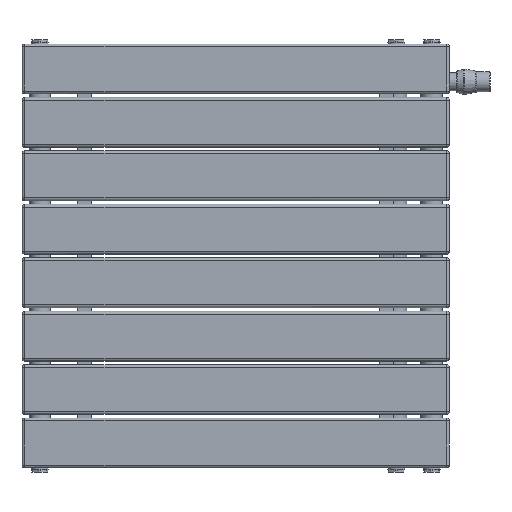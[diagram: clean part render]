
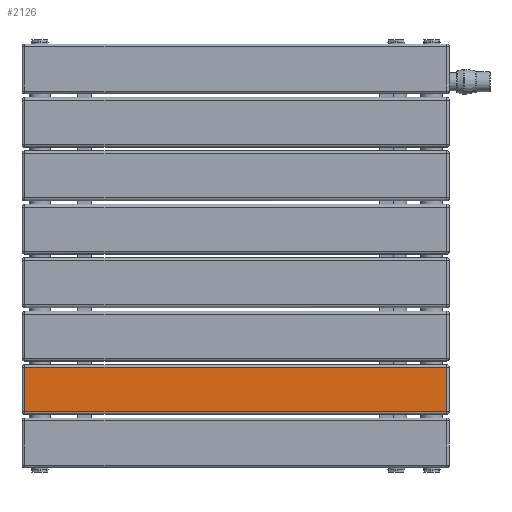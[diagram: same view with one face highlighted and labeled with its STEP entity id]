
A CAD part, top view. The second image highlights one B-rep face of the part: STEP entity #2126.
In plain terms, the highlighted planar face has unit normal (0, 0, 1) as drawn and (0, -1, 0) by its records, which use the part's own axes.
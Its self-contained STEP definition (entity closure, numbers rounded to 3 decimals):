
#237=LINE('',#3378,#409);
#238=LINE('',#3380,#410);
#239=LINE('',#3382,#411);
#240=LINE('',#3383,#412);
#409=VECTOR('',#2664,10.);
#410=VECTOR('',#2665,10.);
#411=VECTOR('',#2666,10.);
#412=VECTOR('',#2667,10.);
#575=PLANE('',#2349);
#695=FACE_OUTER_BOUND('',#832,.T.);
#832=EDGE_LOOP('',(#1564,#1565,#1566,#1567));
#1086=VERTEX_POINT('',#3376);
#1087=VERTEX_POINT('',#3377);
#1088=VERTEX_POINT('',#3379);
#1089=VERTEX_POINT('',#3381);
#1272=EDGE_CURVE('',#1086,#1087,#237,.T.);
#1273=EDGE_CURVE('',#1088,#1086,#238,.T.);
#1274=EDGE_CURVE('',#1089,#1088,#239,.T.);
#1275=EDGE_CURVE('',#1087,#1089,#240,.T.);
#1564=ORIENTED_EDGE('',*,*,#1272,.F.);
#1565=ORIENTED_EDGE('',*,*,#1273,.F.);
#1566=ORIENTED_EDGE('',*,*,#1274,.F.);
#1567=ORIENTED_EDGE('',*,*,#1275,.F.);
#2126=ADVANCED_FACE('',(#695),#575,.T.);
#2349=AXIS2_PLACEMENT_3D('',#3375,#2662,#2663);
#2662=DIRECTION('center_axis',(0.,-1.,0.));
#2663=DIRECTION('ref_axis',(1.,0.,0.));
#2664=DIRECTION('',(-1.,0.,0.));
#2665=DIRECTION('',(0.,0.,-1.));
#2666=DIRECTION('',(1.,0.,0.));
#2667=DIRECTION('',(0.,0.,1.));
#3375=CARTESIAN_POINT('Origin',(-31.,-8.,0.));
#3376=CARTESIAN_POINT('',(31.,-8.,-296.));
#3377=CARTESIAN_POINT('',(-31.,-8.,-296.));
#3378=CARTESIAN_POINT('',(-15.5,-8.,-296.));
#3379=CARTESIAN_POINT('',(31.,-8.,296.));
#3380=CARTESIAN_POINT('',(31.,-8.,0.));
#3381=CARTESIAN_POINT('',(-31.,-8.,296.));
#3382=CARTESIAN_POINT('',(-15.5,-8.,296.));
#3383=CARTESIAN_POINT('',(-31.,-8.,0.));
